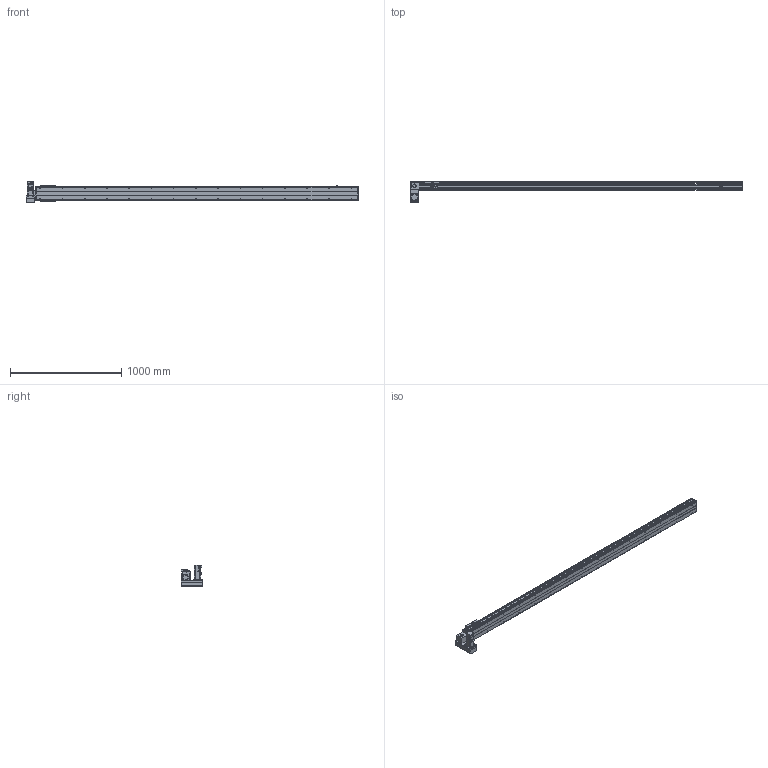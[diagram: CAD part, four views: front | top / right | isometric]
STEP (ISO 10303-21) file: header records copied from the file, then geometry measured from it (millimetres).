
FILE_DESCRIPTION( ( 'STEP AP214' ), '1' );
FILE_NAME( 'x:/temp/worker_6/temp/exporttempdir_3468_21_KJQMu/format_0/PBS120-P40-S2600-LD-T40-C1-N(0).stp', '2022-06-08T08:14:33', ( 'License CC BY-ND 4.0' ), ( 'CADENAS' ), ' ', 'PARTsolutions', ' ' );
FILE_SCHEMA( ( 'AUTOMOTIVE_DESIGN { 1 0 10303 214 1 1 1 1 }' ) );
Length unit declared in the file: millimetre
Products named in the file (7): PBS120-P40-S2600-LD-T40-C1-N(0); _PBS120-S2600()_body; _PBS120T-LD_motors; _T40-p1; _PBS120_sliser; _PBS120_plant; _PBS120_sensor
Assembly tree (8 placements, depth 2):
  PBS120-P40-S2600-LD-T40-C1-N(0)
    _PBS120-S2600()_body
    _PBS120T-LD_motors
    _T40-p1
    _PBS120_sliser
    _PBS120_plant
    _PBS120_sensor  x3
Bounding box: 2986 x 196 x 189.7 mm (x, y, z)
Volume: 11169324.3 mm3; surface area: 2312716.6 mm2
Topology: 8 solids, 8 shells, 870 faces, 2226 edges, 1429 vertices
Faces by surface type: plane 563, cylinder 243, cone 62, torus 2
Full cylindrical faces by diameter (mm): 2.459 x6, 3.242 x4, 4 x2, 4.134 x4, 4.5 x10, 4.917 x34, 5.5 x11, 6 x2, 6.6 x1, 7 x2, 8.5 x4, 9 x4, 12 x1, 14 x1, 30 x2, 40 x1, 50 x2
Entity records: 28500 total; most frequent: DIRECTION 3908, CARTESIAN_POINT 3803, ORIENTED_EDGE 3586, EDGE_CURVE 1793, AXIS2_PLACEMENT_3D 1340, VERTEX_POINT 1235, LINE 1228, VECTOR 1228
